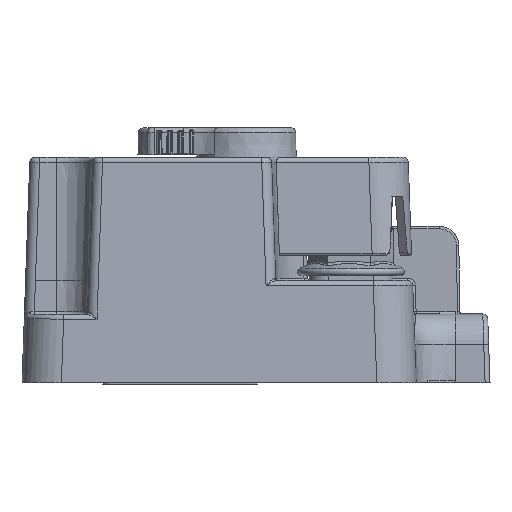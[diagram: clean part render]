
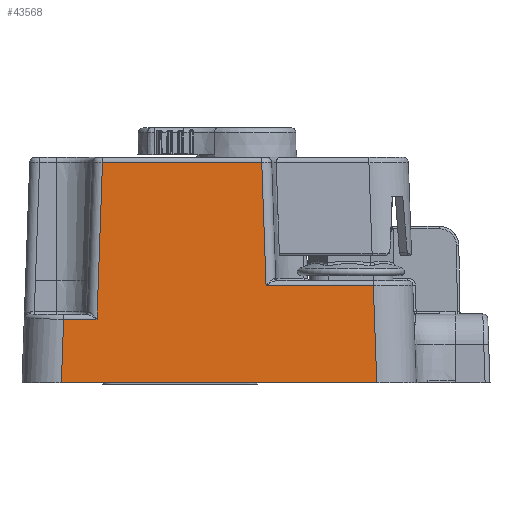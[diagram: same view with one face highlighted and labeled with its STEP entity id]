
A CAD part, left-side view. The second image highlights one B-rep face of the part: STEP entity #43568.
In plain terms, the highlighted planar face has unit normal (-0.999, 0, 0.035).
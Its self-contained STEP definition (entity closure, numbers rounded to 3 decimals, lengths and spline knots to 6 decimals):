
#8514=ORIENTED_EDGE('',*,*,#21038,.T.);
#8515=ORIENTED_EDGE('',*,*,#21039,.T.);
#8516=ORIENTED_EDGE('',*,*,#21040,.T.);
#8517=ORIENTED_EDGE('',*,*,#21041,.T.);
#8518=ORIENTED_EDGE('',*,*,#21042,.T.);
#8519=ORIENTED_EDGE('',*,*,#21043,.T.);
#8520=ORIENTED_EDGE('',*,*,#21036,.T.);
#8521=ORIENTED_EDGE('',*,*,#20623,.F.);
#20623=EDGE_CURVE('',#27050,#27051,#30998,.T.);
#21036=EDGE_CURVE('',#27413,#27051,#31209,.T.);
#21038=EDGE_CURVE('',#27050,#27414,#31210,.T.);
#21039=EDGE_CURVE('',#27414,#27415,#31211,.T.);
#21040=EDGE_CURVE('',#27415,#27416,#31212,.T.);
#21041=EDGE_CURVE('',#27416,#27417,#31213,.T.);
#21042=EDGE_CURVE('',#27417,#27418,#31214,.T.);
#21043=EDGE_CURVE('',#27418,#27413,#31215,.T.);
#27050=VERTEX_POINT('',#66688);
#27051=VERTEX_POINT('',#66690);
#27413=VERTEX_POINT('',#67658);
#27414=VERTEX_POINT('',#67662);
#27415=VERTEX_POINT('',#67664);
#27416=VERTEX_POINT('',#67666);
#27417=VERTEX_POINT('',#67668);
#27418=VERTEX_POINT('',#67670);
#30998=LINE('',#66689,#33988);
#31209=LINE('',#67657,#34199);
#31210=LINE('',#67661,#34200);
#31211=LINE('',#67663,#34201);
#31212=LINE('',#67665,#34202);
#31213=LINE('',#67667,#34203);
#31214=LINE('',#67669,#34204);
#31215=LINE('',#67671,#34205);
#33988=VECTOR('',#52638,1.);
#34199=VECTOR('',#53269,1.);
#34200=VECTOR('',#53274,1.);
#34201=VECTOR('',#53275,1.);
#34202=VECTOR('',#53276,1.);
#34203=VECTOR('',#53277,1.);
#34204=VECTOR('',#53278,1.);
#34205=VECTOR('',#53279,1.);
#37075=EDGE_LOOP('',(#8514,#8515,#8516,#8517,#8518,#8519,#8520,#8521));
#39841=FACE_BOUND('',#37075,.T.);
#42236=PLANE('',#46930);
#43568=ADVANCED_FACE('',(#39841),#42236,.T.);
#46930=AXIS2_PLACEMENT_3D('',#67660,#53272,#53273);
#52638=DIRECTION('',(0.,1.,0.));
#53269=DIRECTION('',(-0.035,0.035,-0.999));
#53272=DIRECTION('',(-0.999,0.,0.035));
#53273=DIRECTION('',(0.035,0.,0.999));
#53274=DIRECTION('',(0.035,0.035,0.999));
#53275=DIRECTION('',(0.,1.,0.));
#53276=DIRECTION('',(0.035,0.035,0.999));
#53277=DIRECTION('',(0.,1.,0.));
#53278=DIRECTION('',(-0.035,0.035,-0.999));
#53279=DIRECTION('',(0.,1.,0.));
#66688=CARTESIAN_POINT('',(0.004808,0.081981,-0.031428));
#66689=CARTESIAN_POINT('',(0.004808,0.073986,-0.031428));
#66690=CARTESIAN_POINT('',(0.004808,0.145991,-0.031428));
#67657=CARTESIAN_POINT('',(0.004895,0.145903,-0.02892));
#67658=CARTESIAN_POINT('',(0.005261,0.145538,-0.018453));
#67660=CARTESIAN_POINT('',(0.004808,0.073986,-0.031428));
#67661=CARTESIAN_POINT('',(0.005524,0.082698,-0.010907));
#67662=CARTESIAN_POINT('',(0.005501,0.082674,-0.011593));
#67663=CARTESIAN_POINT('',(0.005501,0.073986,-0.011593));
#67664=CARTESIAN_POINT('',(0.005501,0.104451,-0.011593));
#67665=CARTESIAN_POINT('',(0.004772,0.103722,-0.032466));
#67666=CARTESIAN_POINT('',(0.006374,0.105324,0.013407));
#67667=CARTESIAN_POINT('',(0.006374,0.073986,0.013407));
#67668=CARTESIAN_POINT('',(0.006374,0.137648,0.013407));
#67669=CARTESIAN_POINT('',(0.005532,0.138489,-0.010698));
#67670=CARTESIAN_POINT('',(0.005261,0.13876,-0.018453));
#67671=CARTESIAN_POINT('',(0.005261,0.073986,-0.018453));
